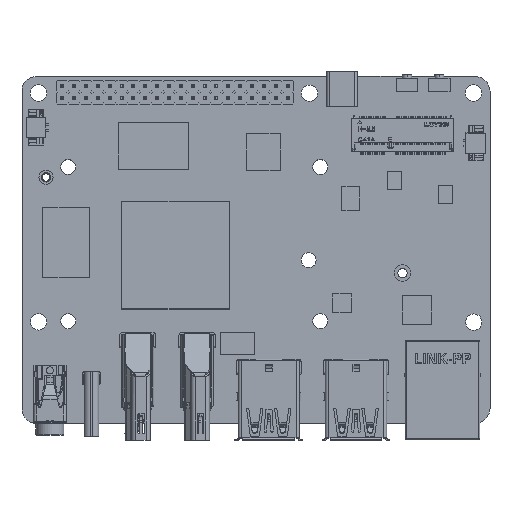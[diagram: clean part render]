
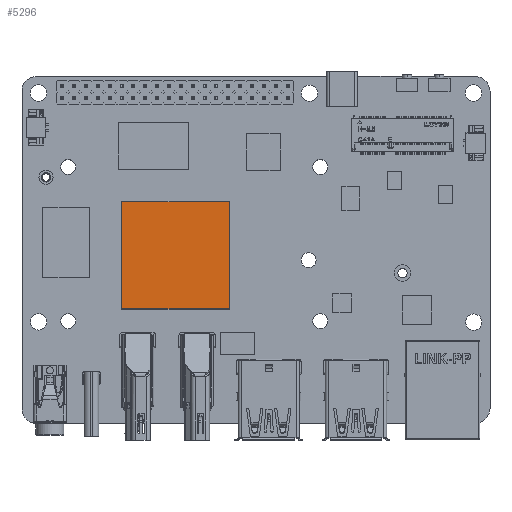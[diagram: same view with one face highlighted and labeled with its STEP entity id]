
A CAD part, top view. The second image highlights one B-rep face of the part: STEP entity #5296.
In plain terms, the highlighted planar face has unit normal (0, 0, 1).
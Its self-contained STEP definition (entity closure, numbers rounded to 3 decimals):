
#2569=DIRECTION('',(0.,-1.,0.));
#2570=VECTOR('',#2569,23.);
#2571=CARTESIAN_POINT('',(-11.5,11.5,1.5));
#2572=LINE('',#2571,#2570);
#2576=DIRECTION('',(-1.,0.,0.));
#2577=VECTOR('',#2576,23.);
#2578=CARTESIAN_POINT('',(11.5,11.5,1.5));
#2579=LINE('',#2578,#2577);
#2583=DIRECTION('',(0.,1.,0.));
#2584=VECTOR('',#2583,23.);
#2585=CARTESIAN_POINT('',(11.5,-11.5,1.5));
#2586=LINE('',#2585,#2584);
#2590=DIRECTION('',(1.,0.,0.));
#2591=VECTOR('',#2590,23.);
#2592=CARTESIAN_POINT('',(-11.5,-11.5,1.5));
#2593=LINE('',#2592,#2591);
#3902=CARTESIAN_POINT('',(-11.5,11.5,1.5));
#3903=CARTESIAN_POINT('',(-11.5,-11.5,1.5));
#3904=VERTEX_POINT('',#3902);
#3905=VERTEX_POINT('',#3903);
#3906=CARTESIAN_POINT('',(11.5,-11.5,1.5));
#3907=VERTEX_POINT('',#3906);
#3908=CARTESIAN_POINT('',(11.5,11.5,1.5));
#3909=VERTEX_POINT('',#3908);
#5285=CARTESIAN_POINT('',(0.,0.,1.5));
#5286=DIRECTION('',(0.,0.,1.));
#5287=DIRECTION('',(1.,0.,0.));
#5288=AXIS2_PLACEMENT_3D('',#5285,#5286,#5287);
#5289=PLANE('',#5288);
#5290=ORIENTED_EDGE('',*,*,#5209,.F.);
#5291=ORIENTED_EDGE('',*,*,#5231,.F.);
#5292=ORIENTED_EDGE('',*,*,#5252,.F.);
#5293=ORIENTED_EDGE('',*,*,#5272,.F.);
#5294=EDGE_LOOP('',(#5290,#5291,#5292,#5293));
#5295=FACE_OUTER_BOUND('',#5294,.F.);
#5296=ADVANCED_FACE('',(#5295),#5289,.T.);
#5209=EDGE_CURVE('',#3904,#3905,#2572,.T.);
#5231=EDGE_CURVE('',#3909,#3904,#2579,.T.);
#5252=EDGE_CURVE('',#3907,#3909,#2586,.T.);
#5272=EDGE_CURVE('',#3905,#3907,#2593,.T.);
